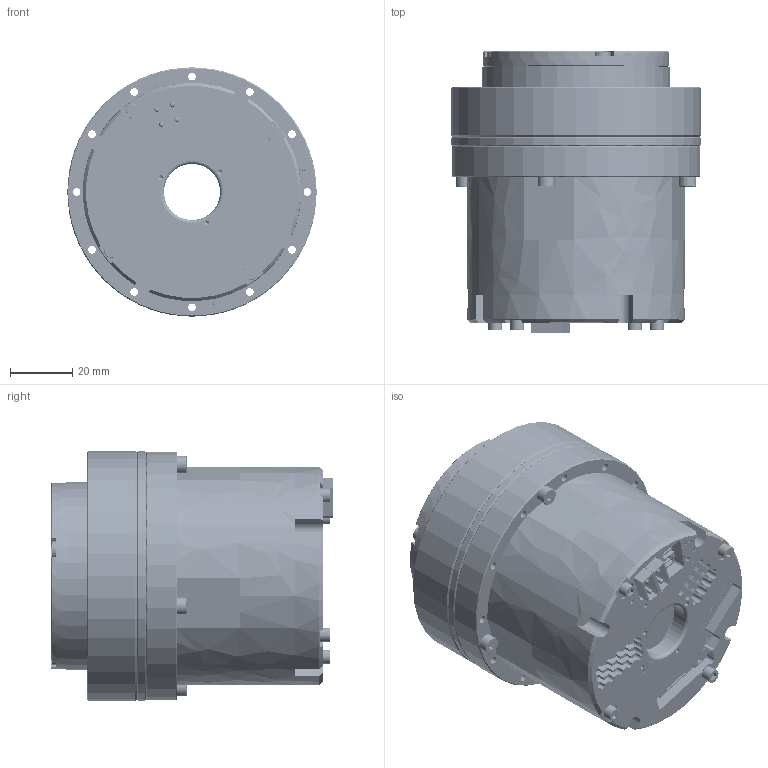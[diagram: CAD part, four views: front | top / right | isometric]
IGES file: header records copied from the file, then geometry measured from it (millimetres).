
Start section: SolidWorks IGES file using analytic representation for surfaces
Global section: file name: C:\Users\Administrator\Desktop\11.7\ﾉﾏｴｫｹﾙﾍeRob80 Iﾐﾍ\eRob80H｡ﾁ｡ﾁI_V4\eRob80H｡ﾁ｡ﾁI_V4.IGS,; native system: SolidWorks 2021; preprocessor: SolidWorks 2021; author: ZERO; date: 221108.154959; units: millimetre
Bounding box: 80 x 90.5 x 80 mm (x, y, z)
Volume: 1409.6 mm3; surface area: 75597.8 mm2
Topology: 17 solids, 36 shells, 2933 faces, 7745 edges, 5017 vertices
Faces by surface type: plane 1590, revolution 1111, bspline 232
